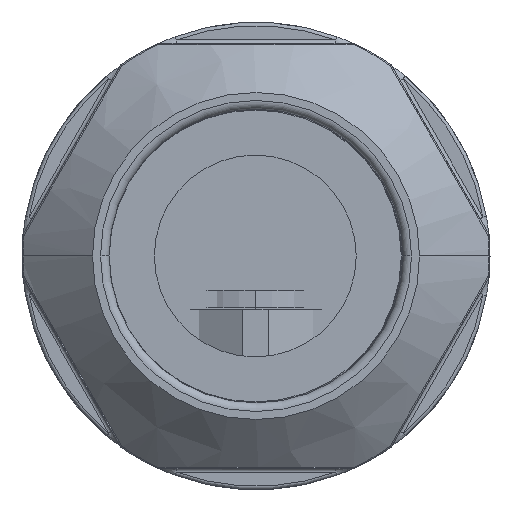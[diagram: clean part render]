
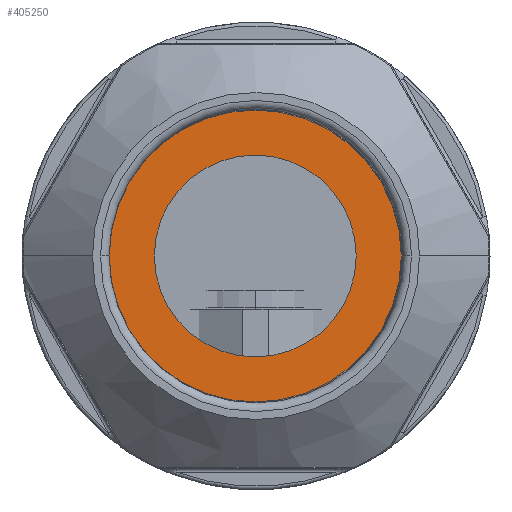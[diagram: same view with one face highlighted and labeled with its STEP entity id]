
A CAD part, left-side view. The second image highlights one B-rep face of the part: STEP entity #405250.
In plain terms, the highlighted planar face has unit normal (-1, 0, 0).
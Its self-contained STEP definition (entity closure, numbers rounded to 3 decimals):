
#404770=CARTESIAN_POINT('',(-194.627,280.367,0.))
;
#404780=VERTEX_POINT('',#404770);
#404860=CARTESIAN_POINT('',(-194.627,303.867,0.))
;
#404870=VERTEX_POINT('',#404860);
#404900=CARTESIAN_POINT('',(-194.627,292.117,0.))
;
#404910=DIRECTION('',(-1.,0.,0.));
#404920=DIRECTION('',(0.,1.,0.));
#404930=AXIS2_PLACEMENT_3D('',#404900,#404910,#404920);
#404940=CIRCLE('',#404930,11.75);
#404950=EDGE_CURVE('',#404780,#404870,#404940,.T.);
#405000=CARTESIAN_POINT('',(-194.627,306.492,0.))
;
#405010=DIRECTION('',(-1.,0.,0.));
#405020=DIRECTION('',(0.,-1.,-0.));
#405030=AXIS2_PLACEMENT_3D('',#405000,#405010,#405020);
#405040=PLANE('',#405030);
#405050=CARTESIAN_POINT('',(-194.627,292.117,0.))
;
#405060=DIRECTION('',(-1.,0.,0.));
#405070=DIRECTION('',(0.,1.,0.));
#405080=AXIS2_PLACEMENT_3D('',#405050,#405060,#405070);
#405090=CIRCLE('',#405080,17.);
#405100=CARTESIAN_POINT('',(-194.627,309.117,0.))
;
#405110=VERTEX_POINT('',#405100);
#405120=CARTESIAN_POINT('',(-194.627,275.117,0.))
;
#405130=VERTEX_POINT('',#405120);
#405140=EDGE_CURVE('',#405110,#405130,#405090,.T.);
#405150=ORIENTED_EDGE('',*,*,#405140,.T.);
#405160=EDGE_CURVE('',#405130,#405110,#405090,.T.);
#405170=ORIENTED_EDGE('',*,*,#405160,.T.);
#405180=EDGE_LOOP('',(#405170,#405150));
#405190=FACE_OUTER_BOUND('',#405180,.T.);
#405200=EDGE_CURVE('',#404870,#404780,#404940,.T.);
#405210=ORIENTED_EDGE('',*,*,#405200,.F.);
#405220=ORIENTED_EDGE('',*,*,#404950,.F.);
#405230=EDGE_LOOP('',(#405220,#405210));
#405240=FACE_BOUND('',#405230,.T.);
#405250=ADVANCED_FACE('',(#405190,#405240),#405040,.T.);
